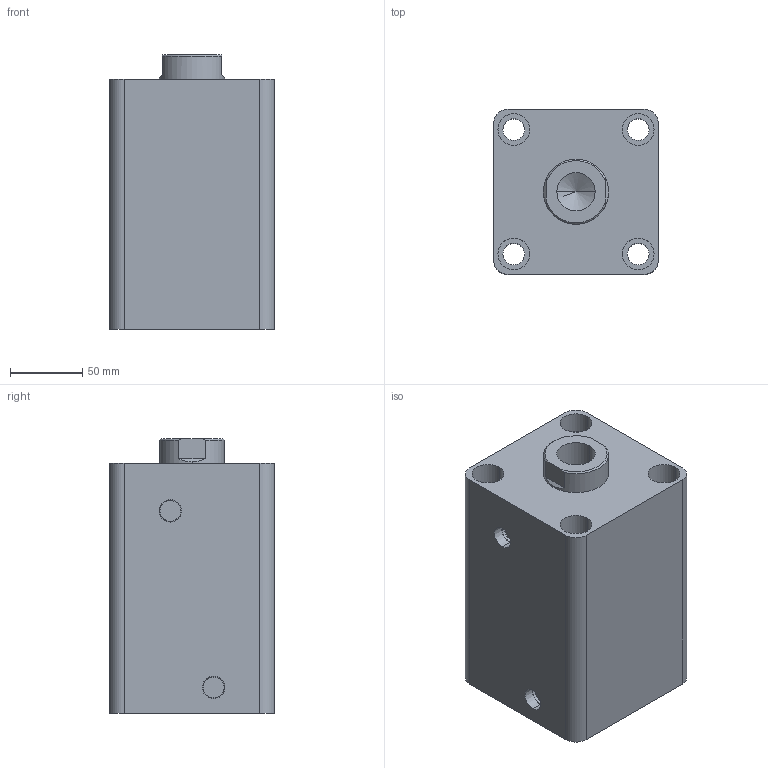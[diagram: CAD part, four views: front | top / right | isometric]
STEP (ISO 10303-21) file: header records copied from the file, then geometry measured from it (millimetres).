
FILE_DESCRIPTION (( 'STEP AP203' ), '1' );
FILE_NAME ('HTB-SD80-95N.STEP', '2019-10-07T08:41:59', ( '微软用户' ), ( '微软中国' ), 'SwSTEP 2.0', 'SolidWorks 2012', '' );
FILE_SCHEMA (( 'CONFIG_CONTROL_DESIGN' ));
Length unit declared in the file: millimetre
Products named in the file (3): HTB-SD80-95N; HTB-SD80-95N活塞杆; HTB-SD80-95掛极
Assembly tree (2 placements, depth 2):
  HTB-SD80-95N
    HTB-SD80-95掛极
    HTB-SD80-95N活塞杆
Bounding box: 114 x 114 x 190 mm (x, y, z)
Volume: 1762094 mm3; surface area: 220444.4 mm2
Topology: 2 solids, 2 shells, 83 faces, 184 edges, 119 vertices
Faces by surface type: cylinder 42, plane 27, cone 8, torus 6
Entity records: 2655 total; most frequent: DIRECTION 456, CARTESIAN_POINT 417, ORIENTED_EDGE 364, AXIS2_PLACEMENT_3D 194, EDGE_CURVE 182, VERTEX_POINT 119, EDGE_LOOP 107, CIRCLE 106
